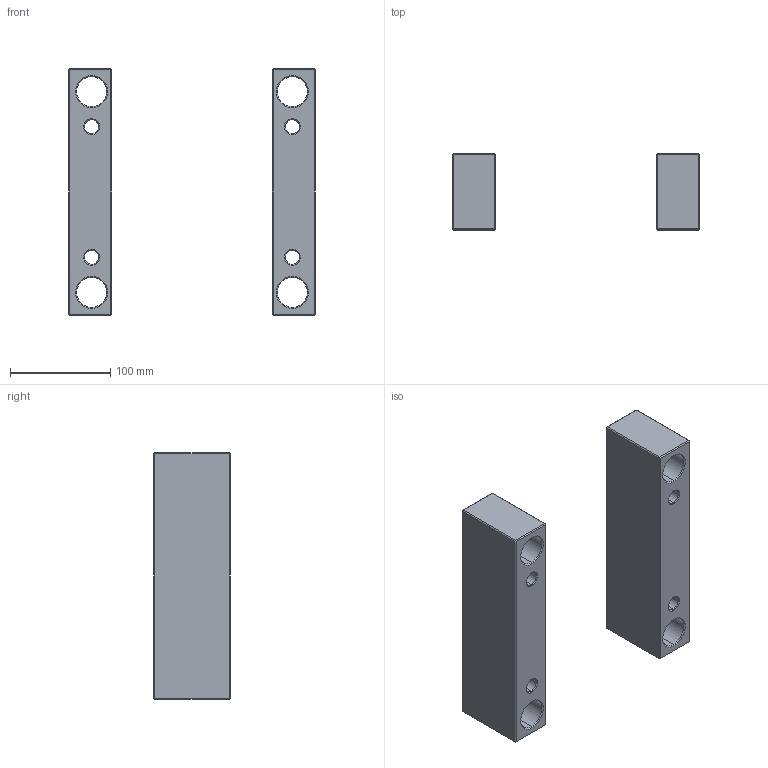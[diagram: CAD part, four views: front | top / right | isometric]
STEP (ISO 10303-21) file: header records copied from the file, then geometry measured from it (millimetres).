
FILE_DESCRIPTION (( 'STEP AP214' ), '1' );
FILE_NAME ('ESP-EU-246X246x76.STEP', '2020-04-15T17:09:39', ( 'August' ), ( '' ), 'SwSTEP 2.0', 'SolidWorks 2018', '' );
FILE_SCHEMA (( 'AUTOMOTIVE_DESIGN' ));
Length unit declared in the file: millimetre
Products named in the file (1): ESP-EU-246X246x76
Bounding box: 246 x 76 x 246 mm (x, y, z)
Volume: 1344154.9 mm3; surface area: 162960.1 mm2
Topology: 2 solids, 2 shells, 100 faces, 208 edges, 112 vertices
Faces by surface type: plane 52, cone 32, cylinder 16
Entity records: 2631 total; most frequent: DIRECTION 474, CARTESIAN_POINT 421, ORIENTED_EDGE 416, EDGE_CURVE 208, AXIS2_PLACEMENT_3D 165, VECTOR 144, LINE 144, EDGE_LOOP 116
